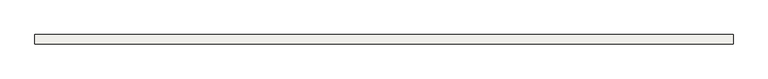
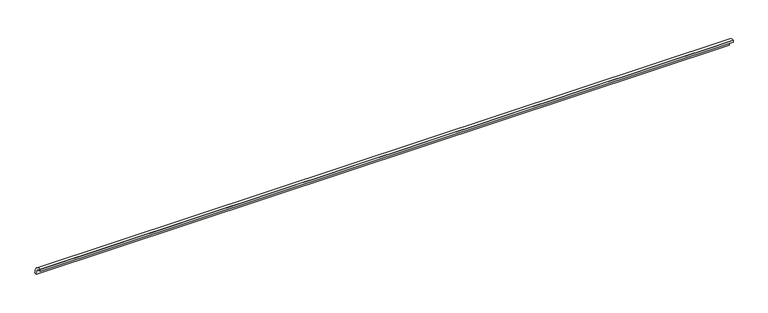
"""IFC4 building model written with IfcOpenShell, lengths in millimetres: slab geometry, ROSA GRES_138 : Pieza 138_Aqua_Plomo_Anti-Slip."""

from ifc_helpers import new_model, si_unit, point, frame, frame_2d, origin, origin_2d, place, context, project, spatial, polyline, circle_curve, trimmed, segment, composite_curve, outline, extrude, source, transform, mapped, element, save


def slab_1b43aec6(model_context):
    return source(origin(), model_context, "Body", "SweptSolid", [
        extrude(outline(composite_curve([segment(trimmed(circle_curve(origin_2d(), 40.0), [point((0.0, 40.0))], [point((40.0, 0.0))], False, "CARTESIAN"), True, "CONTINUOUS"), segment(polyline([(40.0, 0.0), (30.0265886, 0.0)]), True, "CONTINUOUS"), segment(trimmed(circle_curve(frame_2d((0.0044453, 0.0044453)), 30.0221435), [point((30.0265886, 0.0))], [point((0.0, 30.0265886))], True, "CARTESIAN"), True, "CONTINUOUS"), segment(polyline([(0.0, 30.0265886), (0.0, 40.0)]), True, "CONTINUOUS")], self_intersect=False)), frame((0.0, 0.0, 0.0), z_axis=(1.0, 0.0, 0.0), x_axis=(0.0, 1.0, 0.0)), (0.0, 0.0, 1.0), 2960.0),
    ])


if __name__ == "__main__":
    model = new_model("IFC4")
    model_context = context("Model", 3, world=origin())
    ifc_project = project(units=[si_unit("LENGTHUNIT", "METRE", prefix="MILLI")], contexts=[model_context])
    site = spatial("IfcSite", under=ifc_project)
    building = spatial("IfcBuilding", under=site)
    placement = place(None, origin())
    slab_shape = slab_1b43aec6(model_context)
    element("IfcSlab", 1, ObjectType="ROSA GRES_138 : Pieza 138_Aqua_Plomo_Anti-Slip", at=placement, inside=building, context=model_context, shape_type="MappedRepresentation", body=[
        mapped(slab_shape, transform((0.0, 0.0, 0.0), x_axis=(1.0, 0.0, 0.0), y_axis=(0.0, 1.0, 0.0), z_axis=(0.0, 0.0, 1.0))),
    ])
    save(model, "model.ifc")
